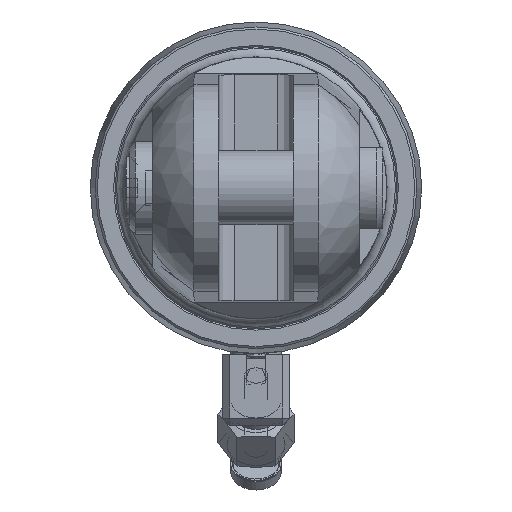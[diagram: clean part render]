
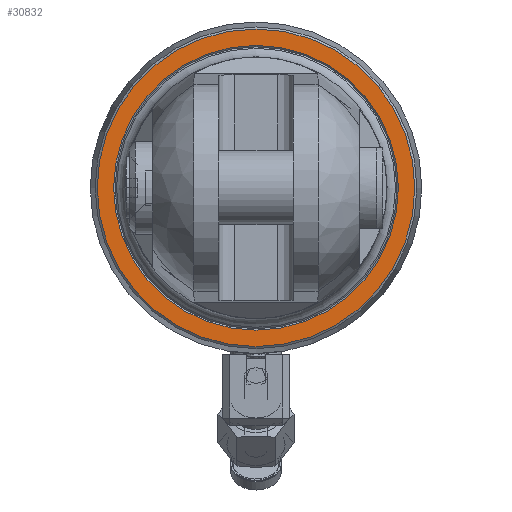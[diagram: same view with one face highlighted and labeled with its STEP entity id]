
A CAD part, left-side view. The second image highlights one B-rep face of the part: STEP entity #30832.
In plain terms, the highlighted planar face has unit normal (-1, 0, 0).
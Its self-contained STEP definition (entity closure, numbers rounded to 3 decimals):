
#228=FACE_BOUND('',#4741,.T.);
#561=CIRCLE('',#32064,36.75);
#576=CIRCLE('',#32084,40.988);
#1485=PLANE('',#32083);
#3021=FACE_OUTER_BOUND('',#4740,.T.);
#4740=EDGE_LOOP('',(#26582));
#4741=EDGE_LOOP('',(#26583));
#14168=VERTEX_POINT('',#56496);
#14184=VERTEX_POINT('',#56696);
#18338=EDGE_CURVE('',#14168,#14168,#561,.T.);
#18360=EDGE_CURVE('',#14184,#14184,#576,.T.);
#26582=ORIENTED_EDGE('',*,*,#18360,.F.);
#26583=ORIENTED_EDGE('',*,*,#18338,.F.);
#30832=ADVANCED_FACE('',(#3021,#228),#1485,.T.);
#32064=AXIS2_PLACEMENT_3D('',#56497,#37068,#37069);
#32083=AXIS2_PLACEMENT_3D('',#56695,#37111,#37112);
#32084=AXIS2_PLACEMENT_3D('',#56697,#37113,#37114);
#37068=DIRECTION('center_axis',(-1.,0.,0.));
#37069=DIRECTION('ref_axis',(0.,1.,0.));
#37111=DIRECTION('center_axis',(-1.,0.,0.));
#37112=DIRECTION('ref_axis',(0.,0.,1.));
#37113=DIRECTION('center_axis',(1.,0.,0.));
#37114=DIRECTION('ref_axis',(0.,-1.,0.));
#56496=CARTESIAN_POINT('',(0.,-36.75,0.));
#56497=CARTESIAN_POINT('Origin',(0.,0.,0.));
#56695=CARTESIAN_POINT('Origin',(0.,0.,0.));
#56696=CARTESIAN_POINT('',(0.,40.988,0.));
#56697=CARTESIAN_POINT('Origin',(0.,0.,0.));
